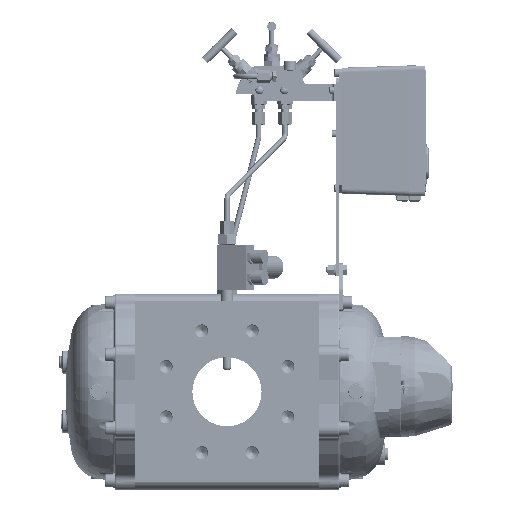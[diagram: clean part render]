
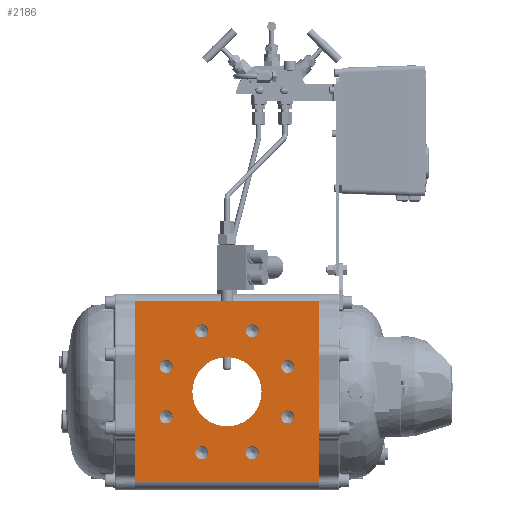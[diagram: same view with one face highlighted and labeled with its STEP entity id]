
A CAD part, front view. The second image highlights one B-rep face of the part: STEP entity #2186.
In plain terms, the highlighted planar face has unit normal (0, -1, 0).
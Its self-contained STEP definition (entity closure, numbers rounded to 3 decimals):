
#2186=ADVANCED_FACE('',(#93724,#93726,#93728,#93730,#93732,#93734,#93736,#93738,
#93740,#93742),#93744,.T.);
#93724=FACE_BOUND('',#93725,.T.);
#93725=EDGE_LOOP('',(#178975,#178976,#178977,#178978));
#93726=FACE_BOUND('',#93727,.T.);
#93727=EDGE_LOOP('',(#178979));
#93728=FACE_BOUND('',#93729,.T.);
#93729=EDGE_LOOP('',(#178980));
#93730=FACE_BOUND('',#93731,.T.);
#93731=EDGE_LOOP('',(#178981));
#93732=FACE_BOUND('',#93733,.T.);
#93733=EDGE_LOOP('',(#178982));
#93734=FACE_BOUND('',#93735,.T.);
#93735=EDGE_LOOP('',(#178983));
#93736=FACE_BOUND('',#93737,.T.);
#93737=EDGE_LOOP('',(#178984));
#93738=FACE_BOUND('',#93739,.T.);
#93739=EDGE_LOOP('',(#178985));
#93740=FACE_BOUND('',#93741,.T.);
#93741=EDGE_LOOP('',(#178986));
#93742=FACE_BOUND('',#93743,.T.);
#93743=EDGE_LOOP('',(#178987));
#93744=PLANE('',#93745);
#93745=AXIS2_PLACEMENT_3D('',#93746,#93747,#93748);
#93746=CARTESIAN_POINT('',(-223.,-120.5,110.));
#93747=DIRECTION('',(0.,-1.,0.));
#93748=DIRECTION('',(0.,0.,-1.));
#178975=ORIENTED_EDGE('',*,*,#247462,.T.);
#178976=ORIENTED_EDGE('',*,*,#247463,.T.);
#178977=ORIENTED_EDGE('',*,*,#247209,.T.);
#178978=ORIENTED_EDGE('',*,*,#247461,.F.);
#178979=ORIENTED_EDGE('',*,*,#247464,.T.);
#178980=ORIENTED_EDGE('',*,*,#247465,.T.);
#178981=ORIENTED_EDGE('',*,*,#247466,.T.);
#178982=ORIENTED_EDGE('',*,*,#247467,.T.);
#178983=ORIENTED_EDGE('',*,*,#247468,.T.);
#178984=ORIENTED_EDGE('',*,*,#247469,.T.);
#178985=ORIENTED_EDGE('',*,*,#247470,.T.);
#178986=ORIENTED_EDGE('',*,*,#247471,.T.);
#178987=ORIENTED_EDGE('',*,*,#247472,.T.);
#247209=EDGE_CURVE('',#277652,#277650,#277653,.T.);
#247461=EDGE_CURVE('',#278097,#277650,#278099,.T.);
#247462=EDGE_CURVE('',#278097,#278100,#278101,.T.);
#247463=EDGE_CURVE('',#278100,#277652,#278102,.T.);
#247464=EDGE_CURVE('',#278103,#278103,#278104,.T.);
#247465=EDGE_CURVE('',#278105,#278105,#278106,.T.);
#247466=EDGE_CURVE('',#278107,#278107,#278108,.T.);
#247467=EDGE_CURVE('',#278109,#278109,#278110,.T.);
#247468=EDGE_CURVE('',#278111,#278111,#278112,.T.);
#247469=EDGE_CURVE('',#278113,#278113,#278114,.T.);
#247470=EDGE_CURVE('',#278115,#278115,#278116,.T.);
#247471=EDGE_CURVE('',#278117,#278117,#278118,.T.);
#247472=EDGE_CURVE('',#278119,#278119,#278120,.T.);
#277650=VERTEX_POINT('',#327040);
#277652=VERTEX_POINT('',#327044);
#277653=LINE('',#327045,#327046);
#278097=VERTEX_POINT('',#330360);
#278099=LINE('',#330364,#330365);
#278100=VERTEX_POINT('',#330367);
#278101=LINE('',#330368,#330369);
#278102=LINE('',#330371,#330372);
#278103=VERTEX_POINT('',#330374);
#278104=CIRCLE('',#330375,7.917);
#278105=VERTEX_POINT('',#330379);
#278106=CIRCLE('',#330380,7.917);
#278107=VERTEX_POINT('',#330384);
#278108=CIRCLE('',#330385,7.917);
#278109=VERTEX_POINT('',#330389);
#278110=CIRCLE('',#330390,7.917);
#278111=VERTEX_POINT('',#330394);
#278112=CIRCLE('',#330395,7.917);
#278113=VERTEX_POINT('',#330399);
#278114=CIRCLE('',#330400,7.917);
#278115=VERTEX_POINT('',#330404);
#278116=CIRCLE('',#330405,7.917);
#278117=VERTEX_POINT('',#330409);
#278118=CIRCLE('',#330410,42.);
#278119=VERTEX_POINT('',#330414);
#278120=CIRCLE('',#330415,7.917);
#327040=CARTESIAN_POINT('',(0.,-120.5,110.));
#327044=CARTESIAN_POINT('',(0.,-120.5,-110.));
#327045=CARTESIAN_POINT('',(0.,-120.5,-110.));
#327046=VECTOR('',#327047,1.);
#327047=DIRECTION('',(0.,0.,1.));
#330360=CARTESIAN_POINT('',(-223.,-120.5,110.));
#330364=CARTESIAN_POINT('',(-223.,-120.5,110.));
#330365=VECTOR('',#330366,1.);
#330366=DIRECTION('',(1.,0.,0.));
#330367=CARTESIAN_POINT('',(-223.,-120.5,-110.));
#330368=CARTESIAN_POINT('',(-223.,-120.5,110.));
#330369=VECTOR('',#330370,1.);
#330370=DIRECTION('',(0.,0.,-1.));
#330371=CARTESIAN_POINT('',(-223.,-120.5,-110.));
#330372=VECTOR('',#330373,1.);
#330373=DIRECTION('',(1.,0.,0.));
#330374=CARTESIAN_POINT('',(-134.197,-120.5,73.91));
#330375=AXIS2_PLACEMENT_3D('',#330376,#330377,#330378);
#330376=CARTESIAN_POINT('',(-142.115,-120.5,73.91));
#330377=DIRECTION('',(0.,1.,0.));
#330378=DIRECTION('',(1.,0.,0.));
#330379=CARTESIAN_POINT('',(-177.493,-120.5,30.615));
#330380=AXIS2_PLACEMENT_3D('',#330381,#330382,#330383);
#330381=CARTESIAN_POINT('',(-185.41,-120.5,30.615));
#330382=DIRECTION('',(0.,1.,0.));
#330383=DIRECTION('',(1.,0.,0.));
#330384=CARTESIAN_POINT('',(-29.672,-120.5,30.615));
#330385=AXIS2_PLACEMENT_3D('',#330386,#330387,#330388);
#330386=CARTESIAN_POINT('',(-37.59,-120.5,30.615));
#330387=DIRECTION('',(0.,1.,0.));
#330388=DIRECTION('',(1.,0.,0.));
#330389=CARTESIAN_POINT('',(-29.672,-120.5,-30.615));
#330390=AXIS2_PLACEMENT_3D('',#330391,#330392,#330393);
#330391=CARTESIAN_POINT('',(-37.59,-120.5,-30.615));
#330392=DIRECTION('',(0.,1.,0.));
#330393=DIRECTION('',(1.,0.,0.));
#330394=CARTESIAN_POINT('',(-72.968,-120.5,-73.91));
#330395=AXIS2_PLACEMENT_3D('',#330396,#330397,#330398);
#330396=CARTESIAN_POINT('',(-80.885,-120.5,-73.91));
#330397=DIRECTION('',(0.,1.,0.));
#330398=DIRECTION('',(1.,0.,0.));
#330399=CARTESIAN_POINT('',(-134.197,-120.5,-73.91));
#330400=AXIS2_PLACEMENT_3D('',#330401,#330402,#330403);
#330401=CARTESIAN_POINT('',(-142.115,-120.5,-73.91));
#330402=DIRECTION('',(0.,1.,0.));
#330403=DIRECTION('',(1.,0.,0.));
#330404=CARTESIAN_POINT('',(-177.493,-120.5,-30.615));
#330405=AXIS2_PLACEMENT_3D('',#330406,#330407,#330408);
#330406=CARTESIAN_POINT('',(-185.41,-120.5,-30.615));
#330407=DIRECTION('',(0.,1.,0.));
#330408=DIRECTION('',(1.,0.,0.));
#330409=CARTESIAN_POINT('',(-153.5,-120.5,0.));
#330410=AXIS2_PLACEMENT_3D('',#330411,#330412,#330413);
#330411=CARTESIAN_POINT('',(-111.5,-120.5,0.));
#330412=DIRECTION('',(0.,1.,0.));
#330413=DIRECTION('',(-1.,0.,0.));
#330414=CARTESIAN_POINT('',(-72.968,-120.5,73.91));
#330415=AXIS2_PLACEMENT_3D('',#330416,#330417,#330418);
#330416=CARTESIAN_POINT('',(-80.885,-120.5,73.91));
#330417=DIRECTION('',(0.,1.,0.));
#330418=DIRECTION('',(1.,0.,0.));
